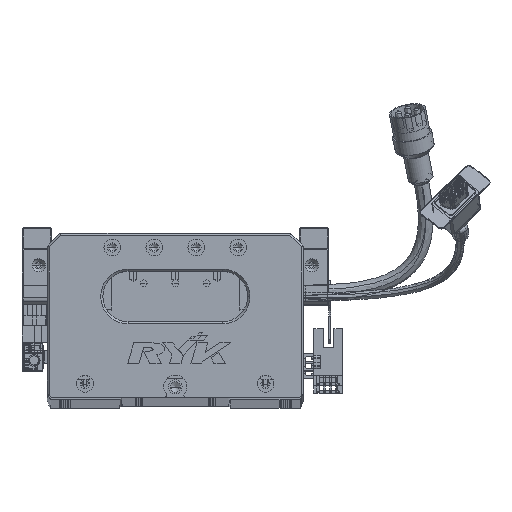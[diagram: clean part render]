
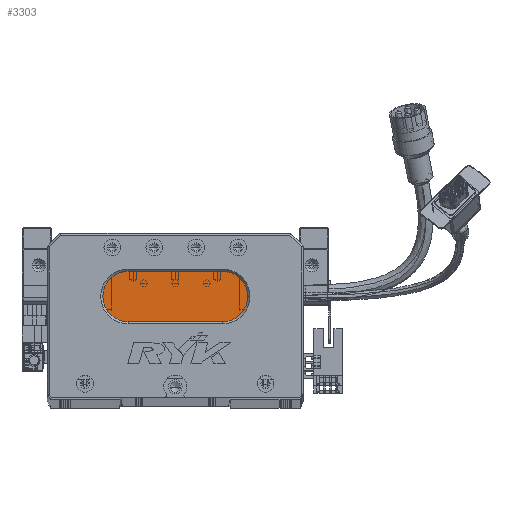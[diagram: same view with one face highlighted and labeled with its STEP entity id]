
A CAD part, top view. The second image highlights one B-rep face of the part: STEP entity #3303.
In plain terms, the highlighted planar face has unit normal (0, 0, 1) as drawn and (0, 0, -1) by its records, which use the part's own axes.
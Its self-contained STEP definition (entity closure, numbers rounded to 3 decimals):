
#3303 = ADVANCED_FACE ( 'NONE', ( #44862 ), #11312, .T. ) ;
#3322 = ORIENTED_EDGE ( 'NONE', *, *, #97044, .T. ) ;
#3377 = DIRECTION ( 'NONE',  ( -1., 0., 0. ) ) ;
#10872 = CIRCLE ( 'NONE', #69602, 12. ) ;
#11312 = PLANE ( 'NONE',  #31652 ) ;
#12140 = VERTEX_POINT ( 'NONE', #35295 ) ;
#13401 = ORIENTED_EDGE ( 'NONE', *, *, #113769, .T. ) ;
#13679 = ORIENTED_EDGE ( 'NONE', *, *, #65626, .T. ) ;
#15338 = CARTESIAN_POINT ( 'NONE',  ( 83.5, 36., 13. ) ) ;
#15965 = CARTESIAN_POINT ( 'NONE',  ( 38.5, 60., 13. ) ) ;
#16950 = EDGE_LOOP ( 'NONE', ( #13401, #3322, #13679, #76915, #86753 ) ) ;
#18003 = DIRECTION ( 'NONE',  ( 0., 0., -1. ) ) ;
#25178 = DIRECTION ( 'NONE',  ( 0., 0., -1. ) ) ;
#31652 = AXIS2_PLACEMENT_3D ( 'NONE', #41744, #48463, #92699 ) ;
#35295 = CARTESIAN_POINT ( 'NONE',  ( 83.5, 60., 13. ) ) ;
#40995 = CIRCLE ( 'NONE', #117173, 12. ) ;
#41325 = EDGE_CURVE ( 'NONE', #47417, #12140, #71471, .T. ) ;
#41744 = CARTESIAN_POINT ( 'NONE',  ( 83.5, 48., 13. ) ) ;
#42220 = CARTESIAN_POINT ( 'NONE',  ( 38.5, 48., 13. ) ) ;
#44862 = FACE_OUTER_BOUND ( 'NONE', #16950, .T. ) ;
#46903 = DIRECTION ( 'NONE',  ( 1., 0., 0. ) ) ;
#47292 = CARTESIAN_POINT ( 'NONE',  ( 38.5, 48., 13. ) ) ;
#47417 = VERTEX_POINT ( 'NONE', #15965 ) ;
#47673 = DIRECTION ( 'NONE',  ( 0., 0., -1. ) ) ;
#48463 = DIRECTION ( 'NONE',  ( 0., 0., -1. ) ) ;
#49050 = LINE ( 'NONE', #15338, #102792 ) ;
#55026 = VERTEX_POINT ( 'NONE', #86829 ) ;
#64014 = VERTEX_POINT ( 'NONE', #116142 ) ;
#65626 = EDGE_CURVE ( 'NONE', #64014, #96736, #40995, .T. ) ;
#69602 = AXIS2_PLACEMENT_3D ( 'NONE', #115643, #18003, #108110 ) ;
#71471 = LINE ( 'NONE', #101036, #91290 ) ;
#76915 = ORIENTED_EDGE ( 'NONE', *, *, #111745, .T. ) ;
#86753 = ORIENTED_EDGE ( 'NONE', *, *, #41325, .T. ) ;
#86829 = CARTESIAN_POINT ( 'NONE',  ( 83.5, 36., 13. ) ) ;
#86916 = AXIS2_PLACEMENT_3D ( 'NONE', #42220, #25178, #114883 ) ;
#91290 = VECTOR ( 'NONE', #46903, 1000. ) ;
#92699 = DIRECTION ( 'NONE',  ( -1., 0., 0. ) ) ;
#96736 = VERTEX_POINT ( 'NONE', #101151 ) ;
#97044 = EDGE_CURVE ( 'NONE', #55026, #64014, #49050, .T. ) ;
#101036 = CARTESIAN_POINT ( 'NONE',  ( 83.5, 60., 13. ) ) ;
#101151 = CARTESIAN_POINT ( 'NONE',  ( 26.5, 48., 13. ) ) ;
#102792 = VECTOR ( 'NONE', #106971, 1000. ) ;
#106971 = DIRECTION ( 'NONE',  ( -1., 0., 0. ) ) ;
#108110 = DIRECTION ( 'NONE',  ( -1., 0., 0. ) ) ;
#111745 = EDGE_CURVE ( 'NONE', #96736, #47417, #112439, .T. ) ;
#112439 = CIRCLE ( 'NONE', #86916, 12. ) ;
#113769 = EDGE_CURVE ( 'NONE', #12140, #55026, #10872, .T. ) ;
#114883 = DIRECTION ( 'NONE',  ( -1., 0., 0. ) ) ;
#115643 = CARTESIAN_POINT ( 'NONE',  ( 83.5, 48., 13. ) ) ;
#116142 = CARTESIAN_POINT ( 'NONE',  ( 38.5, 36., 13. ) ) ;
#117173 = AXIS2_PLACEMENT_3D ( 'NONE', #47292, #47673, #3377 ) ;
